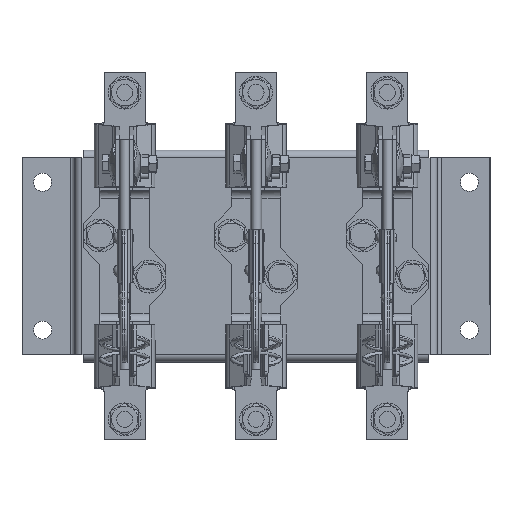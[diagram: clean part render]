
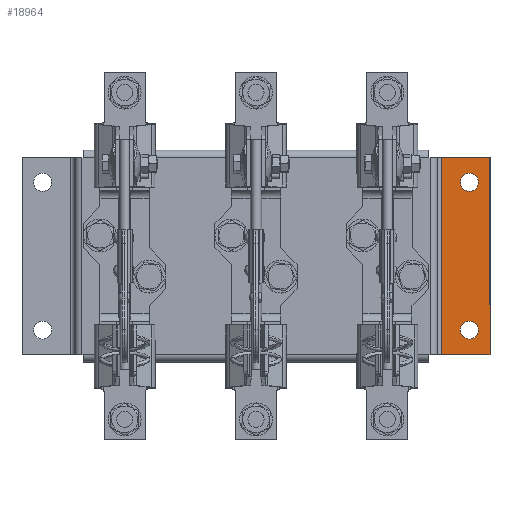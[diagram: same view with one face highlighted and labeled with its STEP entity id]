
A CAD part, top view. The second image highlights one B-rep face of the part: STEP entity #18964.
In plain terms, the highlighted planar face has unit normal (0, 0, 1).
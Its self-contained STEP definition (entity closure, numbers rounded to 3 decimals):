
#191 = ORIENTED_EDGE ( 'NONE', *, *, #70679, .T. ) ;
#607 = DIRECTION ( 'NONE',  ( 1., 0., 0. ) ) ;
#1188 = DIRECTION ( 'NONE',  ( 0., -1., 0. ) ) ;
#2667 = LINE ( 'NONE', #67330, #83039 ) ;
#2872 = CARTESIAN_POINT ( 'NONE',  ( 113., 60., -16. ) ) ;
#3067 = FACE_BOUND ( 'NONE', #25724, .T. ) ;
#4995 = ORIENTED_EDGE ( 'NONE', *, *, #82802, .T. ) ;
#5267 = EDGE_CURVE ( 'NONE', #79418, #15663, #20972, .T. ) ;
#5774 = EDGE_CURVE ( 'NONE', #15663, #12003, #40072, .T. ) ;
#5838 = VERTEX_POINT ( 'NONE', #12746 ) ;
#7430 = DIRECTION ( 'NONE',  ( 0., -1., 0. ) ) ;
#10350 = CARTESIAN_POINT ( 'NONE',  ( 142.5, 60., -16. ) ) ;
#11957 = DIRECTION ( 'NONE',  ( 0., 1., 0. ) ) ;
#12003 = VERTEX_POINT ( 'NONE', #39351 ) ;
#12746 = CARTESIAN_POINT ( 'NONE',  ( 135.5, 45., -16. ) ) ;
#12999 = ORIENTED_EDGE ( 'NONE', *, *, #51622, .T. ) ;
#13242 = CARTESIAN_POINT ( 'NONE',  ( 130., 45., -16. ) ) ;
#14398 = EDGE_LOOP ( 'NONE', ( #47434, #12999 ) ) ;
#14713 = EDGE_LOOP ( 'NONE', ( #191, #38720, #16707, #4995 ) ) ;
#15663 = VERTEX_POINT ( 'NONE', #53304 ) ;
#16707 = ORIENTED_EDGE ( 'NONE', *, *, #5774, .T. ) ;
#18964 = ADVANCED_FACE ( 'NONE', ( #28197, #69429, #3067 ), #38240, .T. ) ;
#20972 = LINE ( 'NONE', #56654, #68247 ) ;
#21425 = EDGE_CURVE ( 'NONE', #30605, #43607, #41450, .T. ) ;
#21880 = VECTOR ( 'NONE', #63625, 1000. ) ;
#25724 = EDGE_LOOP ( 'NONE', ( #46002, #77917 ) ) ;
#27910 = LINE ( 'NONE', #62584, #29934 ) ;
#28197 = FACE_BOUND ( 'NONE', #14398, .T. ) ;
#29934 = VECTOR ( 'NONE', #11957, 1000. ) ;
#30605 = VERTEX_POINT ( 'NONE', #51262 ) ;
#33563 = AXIS2_PLACEMENT_3D ( 'NONE', #77617, #65555, #7430 ) ;
#35156 = VERTEX_POINT ( 'NONE', #10350 ) ;
#35400 = DIRECTION ( 'NONE',  ( 0., 0., -1. ) ) ;
#37808 = DIRECTION ( 'NONE',  ( 0., 0., -1. ) ) ;
#38240 = PLANE ( 'NONE',  #65540 ) ;
#38548 = CARTESIAN_POINT ( 'NONE',  ( 124.5, 45., -16. ) ) ;
#38720 = ORIENTED_EDGE ( 'NONE', *, *, #5267, .T. ) ;
#39351 = CARTESIAN_POINT ( 'NONE',  ( 142.5, -60., -16. ) ) ;
#40072 = LINE ( 'NONE', #76789, #21880 ) ;
#41450 = CIRCLE ( 'NONE', #33563, 5.5 ) ;
#41581 = CARTESIAN_POINT ( 'NONE',  ( 130., -45., -16. ) ) ;
#43607 = VERTEX_POINT ( 'NONE', #82333 ) ;
#44392 = CARTESIAN_POINT ( 'NONE',  ( -170.38, -60., -16. ) ) ;
#44558 = CIRCLE ( 'NONE', #68603, 5.5 ) ;
#46002 = ORIENTED_EDGE ( 'NONE', *, *, #21425, .T. ) ;
#46412 = VERTEX_POINT ( 'NONE', #38548 ) ;
#47434 = ORIENTED_EDGE ( 'NONE', *, *, #74040, .T. ) ;
#47997 = DIRECTION ( 'NONE',  ( 0., -1., 0. ) ) ;
#49427 = EDGE_CURVE ( 'NONE', #43607, #30605, #77270, .T. ) ;
#50683 = DIRECTION ( 'NONE',  ( 0., -1., 0. ) ) ;
#51262 = CARTESIAN_POINT ( 'NONE',  ( 135.5, -45., -16. ) ) ;
#51622 = EDGE_CURVE ( 'NONE', #46412, #5838, #53062, .T. ) ;
#53062 = CIRCLE ( 'NONE', #55205, 5.5 ) ;
#53304 = CARTESIAN_POINT ( 'NONE',  ( 113., -60., -16. ) ) ;
#55205 = AXIS2_PLACEMENT_3D ( 'NONE', #56917, #37808, #50683 ) ;
#55434 = AXIS2_PLACEMENT_3D ( 'NONE', #41581, #35400, #47997 ) ;
#56073 = DIRECTION ( 'NONE',  ( 0., -1., 0. ) ) ;
#56654 = CARTESIAN_POINT ( 'NONE',  ( 113., -60., -16. ) ) ;
#56917 = CARTESIAN_POINT ( 'NONE',  ( 130., 45., -16. ) ) ;
#62575 = DIRECTION ( 'NONE',  ( -1., 0., 0. ) ) ;
#62584 = CARTESIAN_POINT ( 'NONE',  ( 142.5, 60., -16. ) ) ;
#63625 = DIRECTION ( 'NONE',  ( 1., 0., 0. ) ) ;
#65540 = AXIS2_PLACEMENT_3D ( 'NONE', #44392, #83135, #607 ) ;
#65555 = DIRECTION ( 'NONE',  ( 0., 0., -1. ) ) ;
#67330 = CARTESIAN_POINT ( 'NONE',  ( -170.38, 60., -16. ) ) ;
#68247 = VECTOR ( 'NONE', #56073, 1000. ) ;
#68603 = AXIS2_PLACEMENT_3D ( 'NONE', #13242, #78123, #1188 ) ;
#69429 = FACE_OUTER_BOUND ( 'NONE', #14713, .T. ) ;
#70679 = EDGE_CURVE ( 'NONE', #35156, #79418, #2667, .T. ) ;
#74040 = EDGE_CURVE ( 'NONE', #5838, #46412, #44558, .T. ) ;
#76789 = CARTESIAN_POINT ( 'NONE',  ( -170.38, -60., -16. ) ) ;
#77270 = CIRCLE ( 'NONE', #55434, 5.5 ) ;
#77617 = CARTESIAN_POINT ( 'NONE',  ( 130., -45., -16. ) ) ;
#77917 = ORIENTED_EDGE ( 'NONE', *, *, #49427, .T. ) ;
#78123 = DIRECTION ( 'NONE',  ( 0., 0., -1. ) ) ;
#79418 = VERTEX_POINT ( 'NONE', #2872 ) ;
#82333 = CARTESIAN_POINT ( 'NONE',  ( 124.5, -45., -16. ) ) ;
#82802 = EDGE_CURVE ( 'NONE', #12003, #35156, #27910, .T. ) ;
#83039 = VECTOR ( 'NONE', #62575, 1000. ) ;
#83135 = DIRECTION ( 'NONE',  ( 0., 0., 1. ) ) ;
